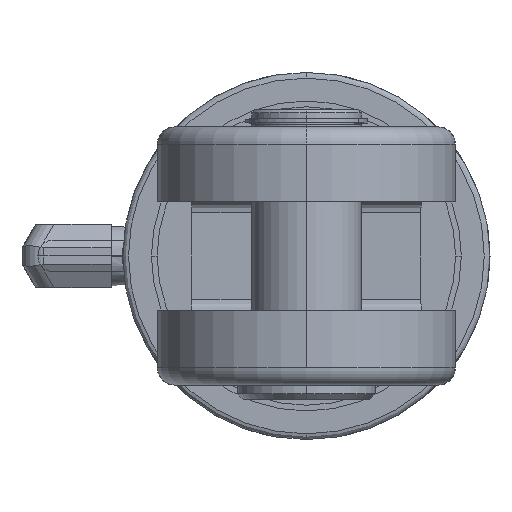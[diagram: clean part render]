
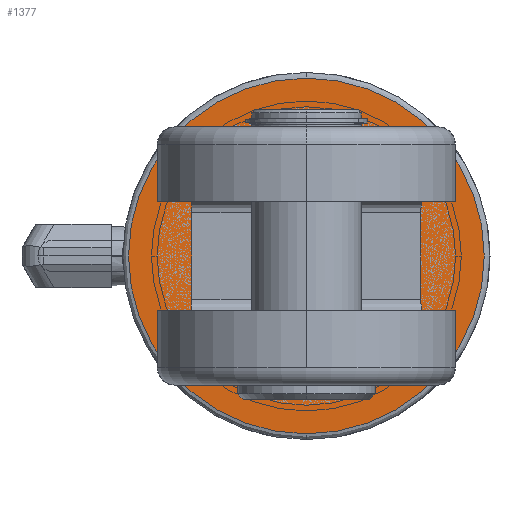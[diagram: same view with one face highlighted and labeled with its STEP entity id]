
A CAD part, left-side view. The second image highlights one B-rep face of the part: STEP entity #1377.
In plain terms, the highlighted planar face has unit normal (-1, 0, 0).
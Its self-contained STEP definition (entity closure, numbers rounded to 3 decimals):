
#718 = FACE_OUTER_BOUND ( 'NONE', #6737, .T. ) ;
#1077 = CARTESIAN_POINT ( 'NONE',  ( 0., 0., 0. ) ) ;
#1218 = CARTESIAN_POINT ( 'NONE',  ( 0., 27., 0. ) ) ;
#1377 = ADVANCED_FACE ( 'NONE', ( #718 ), #2783, .F. ) ;
#2108 = CIRCLE ( 'NONE', #9518, 31. ) ;
#2531 = DIRECTION ( 'NONE',  ( -1., 0., 0. ) ) ;
#2783 = PLANE ( 'NONE',  #4600 ) ;
#2844 = CARTESIAN_POINT ( 'NONE',  ( 0., 0., 31. ) ) ;
#2949 = EDGE_CURVE ( 'NONE', #5581, #6784, #8290, .T. ) ;
#4177 = EDGE_CURVE ( 'NONE', #6784, #5581, #2108, .T. ) ;
#4534 = AXIS2_PLACEMENT_3D ( 'NONE', #1077, #2531, #8377 ) ;
#4600 = AXIS2_PLACEMENT_3D ( 'NONE', #1218, #5788, #9378 ) ;
#4671 = DIRECTION ( 'NONE',  ( 0., 0., 1. ) ) ;
#5298 = CARTESIAN_POINT ( 'NONE',  ( 0., 0., 0. ) ) ;
#5581 = VERTEX_POINT ( 'NONE', #5675 ) ;
#5675 = CARTESIAN_POINT ( 'NONE',  ( 0., 0., -31. ) ) ;
#5788 = DIRECTION ( 'NONE',  ( 1., 0., 0. ) ) ;
#6196 = ORIENTED_EDGE ( 'NONE', *, *, #4177, .T. ) ;
#6737 = EDGE_LOOP ( 'NONE', ( #6196, #9341 ) ) ;
#6784 = VERTEX_POINT ( 'NONE', #2844 ) ;
#7537 = DIRECTION ( 'NONE',  ( -1., 0., 0. ) ) ;
#8290 = CIRCLE ( 'NONE', #4534, 31. ) ;
#8377 = DIRECTION ( 'NONE',  ( 0., 0., 1. ) ) ;
#9341 = ORIENTED_EDGE ( 'NONE', *, *, #2949, .T. ) ;
#9378 = DIRECTION ( 'NONE',  ( 0., 0., -1. ) ) ;
#9518 = AXIS2_PLACEMENT_3D ( 'NONE', #5298, #7537, #4671 ) ;
